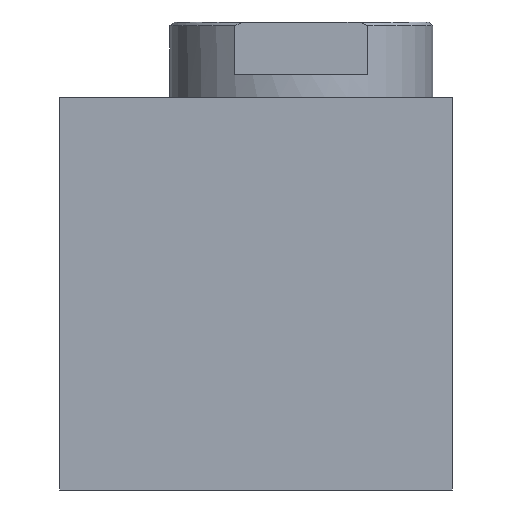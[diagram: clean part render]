
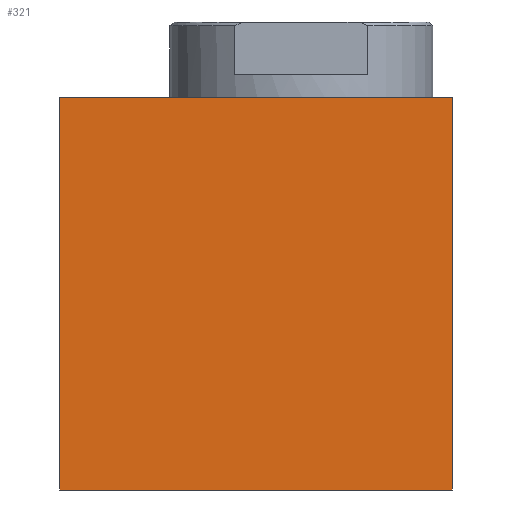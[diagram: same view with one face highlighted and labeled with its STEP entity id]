
A CAD part, left-side view. The second image highlights one B-rep face of the part: STEP entity #321.
In plain terms, the highlighted planar face has unit normal (-1, 0, 0).
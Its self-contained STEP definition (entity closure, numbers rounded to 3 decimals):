
#59=FACE_OUTER_BOUND('',#81,.T.);
#81=EDGE_LOOP('',(#251,#252,#253,#254));
#101=LINE('',#529,#121);
#103=LINE('',#533,#123);
#104=LINE('',#535,#124);
#105=LINE('',#536,#125);
#121=VECTOR('',#434,52.);
#123=VECTOR('',#438,52.);
#124=VECTOR('',#439,52.);
#125=VECTOR('',#440,52.);
#155=VERTEX_POINT('',#526);
#156=VERTEX_POINT('',#528);
#157=VERTEX_POINT('',#532);
#158=VERTEX_POINT('',#534);
#189=EDGE_CURVE('',#156,#155,#101,.T.);
#191=EDGE_CURVE('',#155,#157,#103,.T.);
#192=EDGE_CURVE('',#158,#157,#104,.T.);
#193=EDGE_CURVE('',#156,#158,#105,.T.);
#251=ORIENTED_EDGE('',*,*,#191,.T.);
#252=ORIENTED_EDGE('',*,*,#192,.F.);
#253=ORIENTED_EDGE('',*,*,#193,.F.);
#254=ORIENTED_EDGE('',*,*,#189,.T.);
#280=PLANE('',#357);
#321=ADVANCED_FACE('',(#59),#280,.T.);
#357=AXIS2_PLACEMENT_3D('',#531,#436,#437);
#434=DIRECTION('',(0.,0.,1.));
#436=DIRECTION('center_axis',(-1.,0.,0.));
#437=DIRECTION('ref_axis',(0.,0.,1.));
#438=DIRECTION('',(0.,1.,0.));
#439=DIRECTION('',(0.,0.,1.));
#440=DIRECTION('',(0.,1.,0.));
#526=CARTESIAN_POINT('',(-18.5,-26.,52.));
#528=CARTESIAN_POINT('',(-18.5,-26.,0.));
#529=CARTESIAN_POINT('',(-18.5,-26.,0.));
#531=CARTESIAN_POINT('Origin',(-18.5,-26.,0.));
#532=CARTESIAN_POINT('',(-18.5,26.,52.));
#533=CARTESIAN_POINT('',(-18.5,-26.,52.));
#534=CARTESIAN_POINT('',(-18.5,26.,0.));
#535=CARTESIAN_POINT('',(-18.5,26.,0.));
#536=CARTESIAN_POINT('',(-18.5,-26.,0.));
